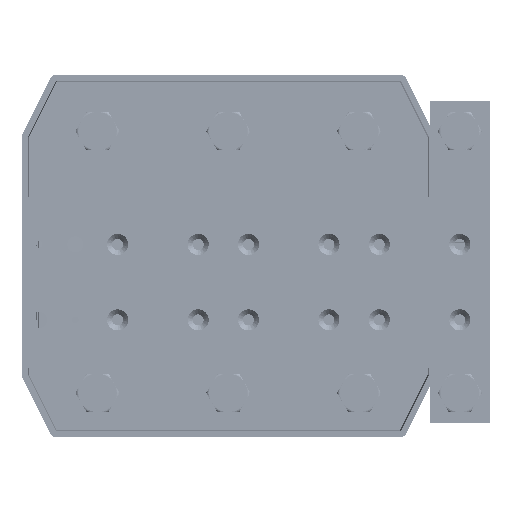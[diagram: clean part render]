
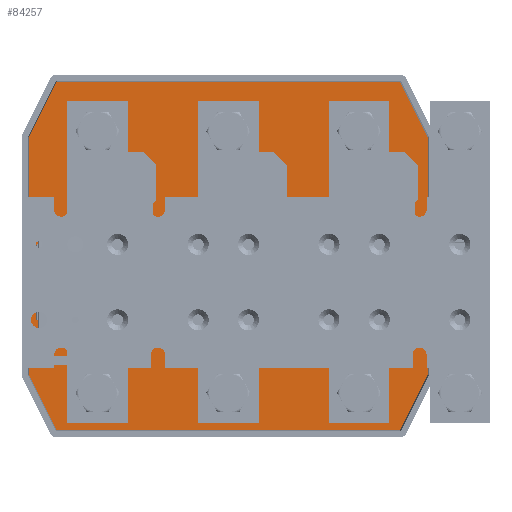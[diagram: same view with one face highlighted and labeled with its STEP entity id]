
A CAD part, front view. The second image highlights one B-rep face of the part: STEP entity #84257.
In plain terms, the highlighted planar face has unit normal (0, -1, 0).
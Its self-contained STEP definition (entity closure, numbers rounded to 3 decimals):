
#5188 = VERTEX_POINT ( 'NONE', #87954 ) ;
#5189 = VERTEX_POINT ( 'NONE', #87953 ) ;
#5289 = EDGE_CURVE ( 'NONE', #44121, #44126, #88101, .T. ) ;
#44121 = VERTEX_POINT ( 'NONE', #77400 ) ;
#44123 = VERTEX_POINT ( 'NONE', #77417 ) ;
#44126 = VERTEX_POINT ( 'NONE', #77393 ) ;
#44128 = VERTEX_POINT ( 'NONE', #77360 ) ;
#44131 = EDGE_CURVE ( 'NONE', #5188, #5189, #77463, .T. ) ;
#44222 = EDGE_CURVE ( 'NONE', #44123, #44128, #77535, .T. ) ;
#59574 = ORIENTED_EDGE ( 'NONE', *, *, #69102, .F. ) ;
#59604 = EDGE_CURVE ( 'NONE', #5189, #5188, #78220, .T. ) ;
#59639 = EDGE_CURVE ( 'NONE', #86784, #61750, #78199, .T. ) ;
#59664 = EDGE_LOOP ( 'NONE', ( #60194, #84149 ) ) ;
#60194 = ORIENTED_EDGE ( 'NONE', *, *, #44222, .F. ) ;
#61750 = VERTEX_POINT ( 'NONE', #78229 ) ;
#62247 = EDGE_CURVE ( 'NONE', #86527, #86683, #78233, .T. ) ;
#62571 = ORIENTED_EDGE ( 'NONE', *, *, #59639, .F. ) ;
#63949 = ORIENTED_EDGE ( 'NONE', *, *, #44131, .F. ) ;
#65500 = ORIENTED_EDGE ( 'NONE', *, *, #86803, .F. ) ;
#65564 = ORIENTED_EDGE ( 'NONE', *, *, #59604, .F. ) ;
#66446 = EDGE_LOOP ( 'NONE', ( #62571, #59574, #65500, #85182, #85218, #84800, #84110, #92511 ) ) ;
#67217 = EDGE_LOOP ( 'NONE', ( #63949, #65564 ) ) ;
#69102 = EDGE_CURVE ( 'NONE', #86535, #86784, #78327, .T. ) ;
#72024 = ORIENTED_EDGE ( 'NONE', *, *, #5289, .F. ) ;
#72026 = EDGE_LOOP ( 'NONE', ( #72024, #84126 ) ) ;
#74188 = EDGE_CURVE ( 'NONE', #61750, #86537, #78375, .T. ) ;
#77360 = CARTESIAN_POINT ( 'NONE',  ( -36.5, 22.1, 53.5 ) ) ;
#77393 = CARTESIAN_POINT ( 'NONE',  ( -36.5, 22.1, -76.5 ) ) ;
#77394 = CARTESIAN_POINT ( 'NONE',  ( -36.5, 22.1, 1.5 ) ) ;
#77400 = CARTESIAN_POINT ( 'NONE',  ( -36.5, 22.1, -50.5 ) ) ;
#77417 = CARTESIAN_POINT ( 'NONE',  ( -36.5, 22.1, 79.5 ) ) ;
#77460 = DIRECTION ( 'NONE',  ( 0., 0., -1. ) ) ;
#77461 = DIRECTION ( 'NONE',  ( 0., -1., 0. ) ) ;
#77462 = AXIS2_PLACEMENT_3D ( 'NONE', #77394, #77461, #77460 ) ;
#77463 = CIRCLE ( 'NONE', #77462, 13. ) ;
#77499 = AXIS2_PLACEMENT_3D ( 'NONE', #77540, #77533, #77532 ) ;
#77532 = DIRECTION ( 'NONE',  ( 0., 0., -1. ) ) ;
#77533 = DIRECTION ( 'NONE',  ( 0., -1., 0. ) ) ;
#77535 = CIRCLE ( 'NONE', #77499, 13. ) ;
#77540 = CARTESIAN_POINT ( 'NONE',  ( -36.5, 22.1, 66.5 ) ) ;
#78198 = CARTESIAN_POINT ( 'NONE',  ( -90., 22.1, -99.114 ) ) ;
#78199 = LINE ( 'NONE', #78198, #78246 ) ;
#78213 = CARTESIAN_POINT ( 'NONE',  ( -36.5, 22.1, 1.5 ) ) ;
#78220 = CIRCLE ( 'NONE', #78258, 13. ) ;
#78229 = CARTESIAN_POINT ( 'NONE',  ( -58.901, 22.1, -99.114 ) ) ;
#78233 = LINE ( 'NONE', #78287, #78286 ) ;
#78245 = DIRECTION ( 'NONE',  ( -1., 0., 0. ) ) ;
#78246 = VECTOR ( 'NONE', #78245, 1000. ) ;
#78249 = DIRECTION ( 'NONE',  ( 0., 0., -1. ) ) ;
#78250 = DIRECTION ( 'NONE',  ( 0., -1., 0. ) ) ;
#78258 = AXIS2_PLACEMENT_3D ( 'NONE', #78213, #78250, #78249 ) ;
#78285 = DIRECTION ( 'NONE',  ( 0.894, 0., 0.447 ) ) ;
#78286 = VECTOR ( 'NONE', #78285, 1000. ) ;
#78287 = CARTESIAN_POINT ( 'NONE',  ( -58.426, 22.1, 99.351 ) ) ;
#78322 = DIRECTION ( 'NONE',  ( -0.894, 0., -0.447 ) ) ;
#78323 = VECTOR ( 'NONE', #78322, 1000. ) ;
#78327 = LINE ( 'NONE', #78328, #78323 ) ;
#78328 = CARTESIAN_POINT ( 'NONE',  ( 58.404, 22.1, -99.362 ) ) ;
#78371 = DIRECTION ( 'NONE',  ( -0.894, 0., 0.447 ) ) ;
#78374 = CARTESIAN_POINT ( 'NONE',  ( -88.403, 22.1, -84.362 ) ) ;
#78375 = LINE ( 'NONE', #78374, #78382 ) ;
#78382 = VECTOR ( 'NONE', #78371, 1000. ) ;
#78783 = AXIS2_PLACEMENT_3D ( 'NONE', #78833, #78832, #78831 ) ;
#78808 = PLANE ( 'NONE',  #78817 ) ;
#78813 = FACE_OUTER_BOUND ( 'NONE', #66446, .T. ) ;
#78814 = FACE_BOUND ( 'NONE', #67217, .T. ) ;
#78817 = AXIS2_PLACEMENT_3D ( 'NONE', #78822, #78821, #78866 ) ;
#78821 = DIRECTION ( 'NONE',  ( 0., -1., 0. ) ) ;
#78822 = CARTESIAN_POINT ( 'NONE',  ( -90., 22.1, -102.5 ) ) ;
#78825 = FACE_BOUND ( 'NONE', #59664, .T. ) ;
#78831 = DIRECTION ( 'NONE',  ( 0., 0., -1. ) ) ;
#78832 = DIRECTION ( 'NONE',  ( 0., -1., 0. ) ) ;
#78833 = CARTESIAN_POINT ( 'NONE',  ( -36.5, 22.1, -63.5 ) ) ;
#78836 = FACE_BOUND ( 'NONE', #72026, .T. ) ;
#78839 = CIRCLE ( 'NONE', #78783, 13. ) ;
#78866 = DIRECTION ( 'NONE',  ( 0., 0., -1. ) ) ;
#79032 = CARTESIAN_POINT ( 'NONE',  ( 88.428, 22.1, 84.35 ) ) ;
#79033 = LINE ( 'NONE', #79032, #79042 ) ;
#79041 = DIRECTION ( 'NONE',  ( 0.894, 0., -0.447 ) ) ;
#79042 = VECTOR ( 'NONE', #79041, 1000. ) ;
#79269 = CARTESIAN_POINT ( 'NONE',  ( -86.614, 22.1, 85.257 ) ) ;
#79283 = CARTESIAN_POINT ( 'NONE',  ( 58.901, 22.1, 99.114 ) ) ;
#79289 = CARTESIAN_POINT ( 'NONE',  ( -36.5, 22.1, 66.5 ) ) ;
#79290 = CARTESIAN_POINT ( 'NONE',  ( 86.614, 22.1, -85.257 ) ) ;
#79292 = AXIS2_PLACEMENT_3D ( 'NONE', #79289, #79354, #79353 ) ;
#79335 = DIRECTION ( 'NONE',  ( 0., 0., 1. ) ) ;
#79336 = VECTOR ( 'NONE', #79335, 1000. ) ;
#79348 = CARTESIAN_POINT ( 'NONE',  ( -86.614, 22.1, -102.5 ) ) ;
#79349 = LINE ( 'NONE', #79348, #79336 ) ;
#79350 = CARTESIAN_POINT ( 'NONE',  ( 86.614, 22.1, 85.257 ) ) ;
#79353 = DIRECTION ( 'NONE',  ( 0., 0., -1. ) ) ;
#79354 = DIRECTION ( 'NONE',  ( 0., -1., 0. ) ) ;
#79357 = CARTESIAN_POINT ( 'NONE',  ( -86.614, 22.1, -85.257 ) ) ;
#79360 = CIRCLE ( 'NONE', #79292, 13. ) ;
#79375 = DIRECTION ( 'NONE',  ( 1., 0., 0. ) ) ;
#79376 = VECTOR ( 'NONE', #79375, 1000. ) ;
#79378 = CARTESIAN_POINT ( 'NONE',  ( -90., 22.1, 99.114 ) ) ;
#79385 = LINE ( 'NONE', #79378, #79376 ) ;
#79622 = CARTESIAN_POINT ( 'NONE',  ( -58.901, 22.1, 99.114 ) ) ;
#79965 = CARTESIAN_POINT ( 'NONE',  ( 58.901, 22.1, -99.114 ) ) ;
#80002 = LINE ( 'NONE', #80022, #80046 ) ;
#80021 = DIRECTION ( 'NONE',  ( 0., 0., -1. ) ) ;
#80022 = CARTESIAN_POINT ( 'NONE',  ( 86.614, 22.1, -102.5 ) ) ;
#80046 = VECTOR ( 'NONE', #80021, 1000. ) ;
#84110 = ORIENTED_EDGE ( 'NONE', *, *, #86545, .F. ) ;
#84126 = ORIENTED_EDGE ( 'NONE', *, *, #84150, .F. ) ;
#84149 = ORIENTED_EDGE ( 'NONE', *, *, #86533, .F. ) ;
#84150 = EDGE_CURVE ( 'NONE', #44126, #44121, #78839, .T. ) ;
#84257 = ADVANCED_FACE ( 'NONE', ( #78825, #78836, #78814, #78813 ), #78808, .T. ) ;
#84800 = ORIENTED_EDGE ( 'NONE', *, *, #62247, .F. ) ;
#85182 = ORIENTED_EDGE ( 'NONE', *, *, #85947, .F. ) ;
#85218 = ORIENTED_EDGE ( 'NONE', *, *, #86563, .F. ) ;
#85947 = EDGE_CURVE ( 'NONE', #86523, #86541, #79033, .T. ) ;
#86523 = VERTEX_POINT ( 'NONE', #79283 ) ;
#86527 = VERTEX_POINT ( 'NONE', #79269 ) ;
#86533 = EDGE_CURVE ( 'NONE', #44128, #44123, #79360, .T. ) ;
#86535 = VERTEX_POINT ( 'NONE', #79290 ) ;
#86537 = VERTEX_POINT ( 'NONE', #79357 ) ;
#86541 = VERTEX_POINT ( 'NONE', #79350 ) ;
#86545 = EDGE_CURVE ( 'NONE', #86537, #86527, #79349, .T. ) ;
#86563 = EDGE_CURVE ( 'NONE', #86683, #86523, #79385, .T. ) ;
#86683 = VERTEX_POINT ( 'NONE', #79622 ) ;
#86784 = VERTEX_POINT ( 'NONE', #79965 ) ;
#86803 = EDGE_CURVE ( 'NONE', #86541, #86535, #80002, .T. ) ;
#87953 = CARTESIAN_POINT ( 'NONE',  ( -36.5, 22.1, -11.5 ) ) ;
#87954 = CARTESIAN_POINT ( 'NONE',  ( -36.5, 22.1, 14.5 ) ) ;
#88073 = CARTESIAN_POINT ( 'NONE',  ( -36.5, 22.1, -63.5 ) ) ;
#88092 = DIRECTION ( 'NONE',  ( 0., 0., -1. ) ) ;
#88093 = DIRECTION ( 'NONE',  ( 0., -1., 0. ) ) ;
#88094 = AXIS2_PLACEMENT_3D ( 'NONE', #88073, #88093, #88092 ) ;
#88101 = CIRCLE ( 'NONE', #88094, 13. ) ;
#92511 = ORIENTED_EDGE ( 'NONE', *, *, #74188, .F. ) ;
